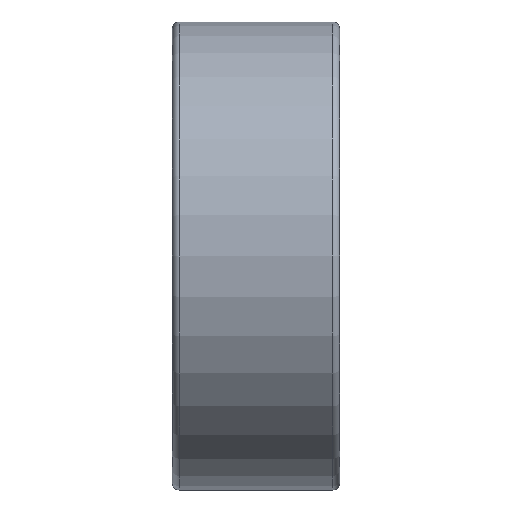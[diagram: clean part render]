
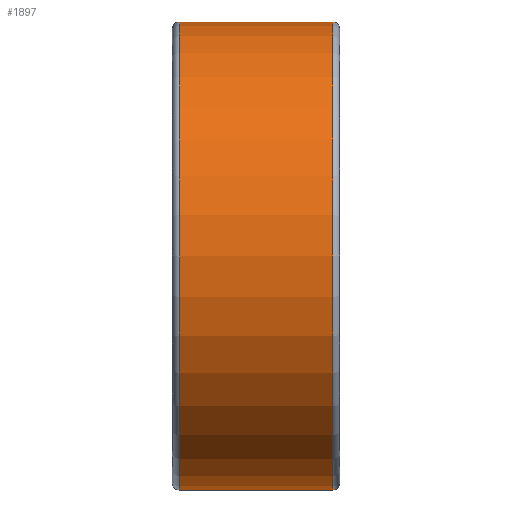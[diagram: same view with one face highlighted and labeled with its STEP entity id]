
A CAD part, front view. The second image highlights one B-rep face of the part: STEP entity #1897.
In plain terms, the highlighted cylindrical face has radius 3.5 mm (diameter 7 mm), a partial arc.
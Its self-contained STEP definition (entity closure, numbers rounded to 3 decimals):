
#209=CARTESIAN_POINT('',(1.15,0.,0.));
#210=DIRECTION('',(-1.,0.,0.));
#211=DIRECTION('',(0.,0.,-1.));
#212=AXIS2_PLACEMENT_3D('',#209,#210,#211);
#798=DIRECTION('',(-1.,0.,0.));
#799=VECTOR('',#798,2.3);
#800=CARTESIAN_POINT('',(1.15,0.,3.5));
#801=LINE('',#800,#799);
#802=DIRECTION('',(-1.,0.,0.));
#803=VECTOR('',#802,2.3);
#804=CARTESIAN_POINT('',(1.15,0.,-3.5));
#805=LINE('',#804,#803);
#811=CARTESIAN_POINT('',(-1.15,0.,0.));
#812=DIRECTION('',(1.,0.,0.));
#813=DIRECTION('',(0.,0.,1.));
#814=AXIS2_PLACEMENT_3D('',#811,#812,#813);
#966=CARTESIAN_POINT('',(1.15,0.,3.5));
#967=VERTEX_POINT('',#966);
#968=CARTESIAN_POINT('',(1.15,0.,-3.5));
#969=VERTEX_POINT('',#968);
#970=CARTESIAN_POINT('',(-1.15,0.,-3.5));
#971=VERTEX_POINT('',#970);
#972=CARTESIAN_POINT('',(-1.15,0.,3.5));
#973=VERTEX_POINT('',#972);
#1885=CARTESIAN_POINT('',(0.,0.,0.));
#1886=DIRECTION('',(-1.,0.,0.));
#1887=DIRECTION('',(0.,0.,1.));
#1888=AXIS2_PLACEMENT_3D('',#1885,#1886,#1887);
#1889=CYLINDRICAL_SURFACE('',#1888,3.5);
#1890=ORIENTED_EDGE('',*,*,#1880,.T.);
#1892=ORIENTED_EDGE('',*,*,#1891,.F.);
#1893=ORIENTED_EDGE('',*,*,#1877,.F.);
#1894=ORIENTED_EDGE('',*,*,#1021,.F.);
#1895=EDGE_LOOP('',(#1890,#1892,#1893,#1894));
#1896=FACE_OUTER_BOUND('',#1895,.F.);
#1897=ADVANCED_FACE('',(#1896),#1889,.T.);
#213=CIRCLE('',#212,3.5);
#815=CIRCLE('',#814,3.5);
#1021=EDGE_CURVE('',#969,#967,#213,.T.);
#1877=EDGE_CURVE('',#967,#973,#801,.T.);
#1880=EDGE_CURVE('',#969,#971,#805,.T.);
#1891=EDGE_CURVE('',#973,#971,#815,.T.);
